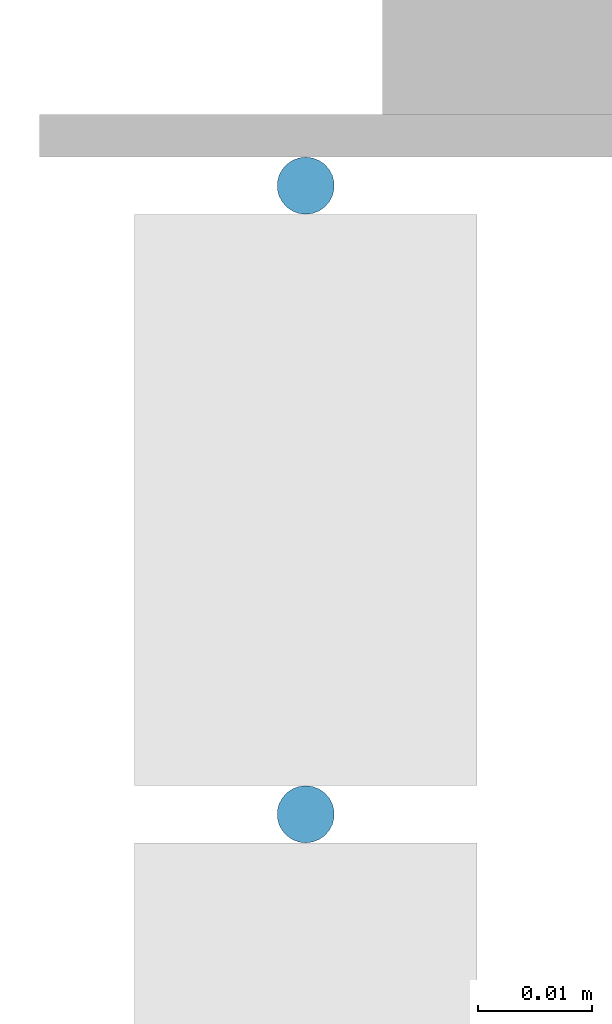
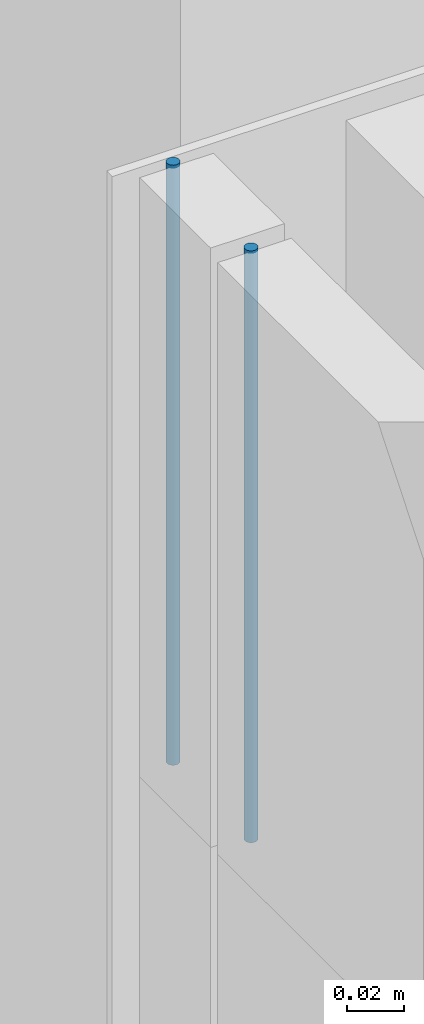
# One storey, part 61 of 81: 2 members, 1 element without a shape of its own.
"""IFC2X3 building model written with IfcOpenShell, lengths in metres."""

from ifc_helpers import new_model, entity, si_unit, converted_unit, derived_unit, direction, frame, frame_2d, origin, place, context, subcontext, project, spatial, circle, extrude, source, transform, mapped, material, type_object, type_shapes, element, aggregate, save


model = new_model("IFC2X3")

# Units and contexts
model_context = context("Model", 3, precision=1e-05, world=origin(), true_north=direction((6.12303176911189e-17, 1.0)))
body_context = subcontext(model_context, "Body", "Model", "MODEL_VIEW")
ifc_project = project(units=[si_unit("LENGTHUNIT", "METRE"), si_unit("AREAUNIT", "SQUARE_METRE"), si_unit("VOLUMEUNIT", "CUBIC_METRE"), converted_unit("PLANEANGLEUNIT", "DEGREE", entity("IfcRatioMeasure", 0.0174532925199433), si_unit("PLANEANGLEUNIT", "RADIAN"), dimensions=[0, 0, 0, 0, 0, 0, 0]), si_unit("MASSUNIT", "GRAM", prefix="KILO"), derived_unit("MASSDENSITYUNIT", [(si_unit("MASSUNIT", "GRAM", prefix="KILO"), 1), (si_unit("LENGTHUNIT", "METRE"), -3)]), derived_unit("MOMENTOFINERTIAUNIT", [(si_unit("LENGTHUNIT", "METRE"), 4)]), si_unit("TIMEUNIT", "SECOND"), si_unit("FREQUENCYUNIT", "HERTZ"), si_unit("THERMODYNAMICTEMPERATUREUNIT", "DEGREE_CELSIUS"), derived_unit("THERMALTRANSMITTANCEUNIT", [(si_unit("MASSUNIT", "GRAM", prefix="KILO"), 1), (si_unit("THERMODYNAMICTEMPERATUREUNIT", "KELVIN"), -1), (si_unit("TIMEUNIT", "SECOND"), -3)]), derived_unit("VOLUMETRICFLOWRATEUNIT", [(si_unit("LENGTHUNIT", "METRE"), 3), (si_unit("TIMEUNIT", "SECOND"), -1)]), si_unit("ELECTRICCURRENTUNIT", "AMPERE"), si_unit("ELECTRICVOLTAGEUNIT", "VOLT"), si_unit("POWERUNIT", "WATT"), si_unit("FORCEUNIT", "NEWTON", prefix="KILO"), si_unit("ILLUMINANCEUNIT", "LUX"), si_unit("LUMINOUSFLUXUNIT", "LUMEN"), si_unit("LUMINOUSINTENSITYUNIT", "CANDELA"), derived_unit("USERDEFINED", [(si_unit("MASSUNIT", "GRAM", prefix="KILO"), -1), (si_unit("LENGTHUNIT", "METRE"), -2), (si_unit("TIMEUNIT", "SECOND"), 3), (si_unit("LUMINOUSFLUXUNIT", "LUMEN"), 1)]), derived_unit("LINEARVELOCITYUNIT", [(si_unit("LENGTHUNIT", "METRE"), 1), (si_unit("TIMEUNIT", "SECOND"), -1)]), si_unit("PRESSUREUNIT", "PASCAL"), derived_unit("USERDEFINED", [(si_unit("LENGTHUNIT", "METRE"), -2), (si_unit("MASSUNIT", "GRAM", prefix="KILO"), 1), (si_unit("TIMEUNIT", "SECOND"), -2)]), derived_unit("LINEARFORCEUNIT", [(si_unit("MASSUNIT", "GRAM", prefix="KILO"), 1), (si_unit("LENGTHUNIT", "METRE"), 1), (si_unit("TIMEUNIT", "SECOND"), -2), (si_unit("LENGTHUNIT", "METRE"), -1)]), derived_unit("PLANARFORCEUNIT", [(si_unit("MASSUNIT", "GRAM", prefix="KILO"), 1), (si_unit("LENGTHUNIT", "METRE"), 1), (si_unit("TIMEUNIT", "SECOND"), -2), (si_unit("LENGTHUNIT", "METRE"), -2)])], contexts=[model_context])

# Site, building, storey
site_placement = place(None, origin())
site = spatial("IfcSite", under=ifc_project, at=site_placement, Name="Surface", CompositionType="ELEMENT")
building_placement = place(site_placement, origin())
building = spatial("IfcBuilding", under=site, at=building_placement, CompositionType="ELEMENT")
storey_placement = place(building_placement, origin())
storey = spatial("IfcBuildingStorey", under=building, at=storey_placement, Name="01 RDC", CompositionType="ELEMENT", Elevation=-1.94916083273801e-14)

# Curtain wall, members
curtain_wall_type = type_object("IfcCurtainWallType", Name="Mur-rideau:1m x 2m", PredefinedType="NOTDEFINED")
curtain_wall_placement = place(storey_placement, origin())
curtain_wall = element("IfcCurtainWall", 1, at=curtain_wall_placement, inside=storey, type_object=curtain_wall_type, Name="Mur-rideau:1m x 2m", ObjectType="Mur-rideau:1m x 2m")
ifc_material = material(Name="Aluminium - Vert")
member_type_1 = type_object("IfcMemberType", Name="Meneau circulaire:R-30 mm", PredefinedType="MULLION", material=ifc_material)
shared_shape_1 = source(origin(), body_context, "Body", "SweptSolid", [
    extrude(circle(Radius=0.0025, at=frame_2d((5.28743715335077e-19, 4.22540206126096e-16), x_axis=(1.0, 0.0))), frame((-0.0025, 0.0, -0.258248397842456), z_axis=(0.0, 0.0, 1.0), x_axis=(-1.0, 0.0, 0.0)), (0.0, 0.0, 1.0), 0.258248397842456),
])
type_shapes(member_type_1, [shared_shape_1])
member_1_placement = place(storey_placement, frame((5.45983615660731, -3.69971095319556, 2.3), z_axis=(0.0, 0.0, -1.0), x_axis=(0.0, 1.0, 0.0)))
member_1 = element("IfcMember", 2, at=member_1_placement, type_object=member_type_1, material=ifc_material, Name="Meneau circulaire:R-30 mm", ObjectType="Meneau circulaire:R-30 mm", context=body_context, shape_type="MappedRepresentation", body=[
    mapped(shared_shape_1, transform((0.0, 0.0, 0.0), scale=1.0)),
])
member_type_2 = type_object("IfcMemberType", Name="Meneau circulaire:R-30 mm", PredefinedType="MULLION", material=ifc_material)
shared_shape_2 = source(origin(), body_context, "Body", "SweptSolid", [
    extrude(circle(Radius=0.0025, at=frame_2d((-1.38161908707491e-28, 4.15640863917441e-16), x_axis=(1.0, 0.0))), frame((0.0, 0.0, -0.254731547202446), z_axis=(0.0, 0.0, 1.0), x_axis=(-1.0, 0.0, 0.0)), (0.0, 0.0, 1.0), 0.254731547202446),
])
type_shapes(member_type_2, [shared_shape_2])
member_2_placement = place(storey_placement, frame((5.45983615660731, -3.75721095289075, 2.3), z_axis=(0.0, 0.0, -1.0), x_axis=(0.0, 1.0, 0.0)))
member_2 = element("IfcMember", 3, at=member_2_placement, type_object=member_type_2, material=ifc_material, Name="Meneau circulaire:R-30 mm", ObjectType="Meneau circulaire:R-30 mm", context=body_context, shape_type="MappedRepresentation", body=[
    mapped(shared_shape_2, transform((0.0, 0.0, 0.0), scale=1.0)),
])
aggregate(curtain_wall, [member_1, member_2])

save(model, "model.ifc")
